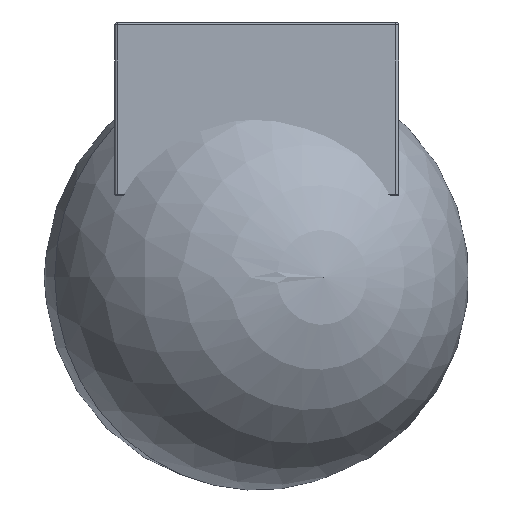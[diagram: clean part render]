
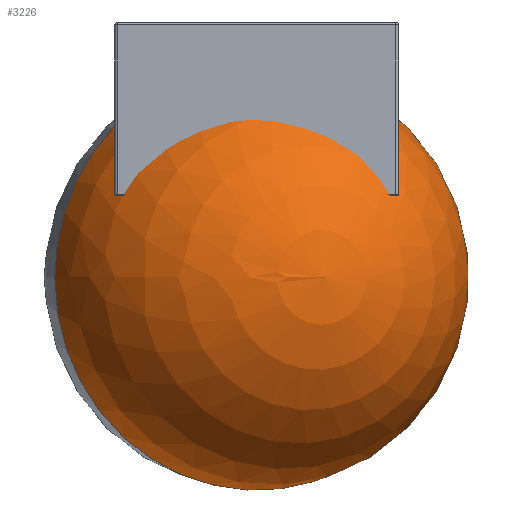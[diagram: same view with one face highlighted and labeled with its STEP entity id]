
A CAD part, left-side view. The second image highlights one B-rep face of the part: STEP entity #3226.
In plain terms, the highlighted spherical face has radius 60 mm.
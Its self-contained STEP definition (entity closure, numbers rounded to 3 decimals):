
#91=SPHERICAL_SURFACE('',#3648,60.);
#423=CIRCLE('',#3644,60.);
#425=CIRCLE('',#3646,60.);
#427=CIRCLE('',#3649,27.942);
#428=CIRCLE('',#3650,60.);
#636=FACE_OUTER_BOUND('',#861,.T.);
#861=EDGE_LOOP('',(#2909,#2910,#2911,#2912,#2913));
#1560=VERTEX_POINT('',#5760);
#1561=VERTEX_POINT('',#5761);
#1563=VERTEX_POINT('',#5765);
#1564=VERTEX_POINT('',#5770);
#2012=EDGE_CURVE('',#1560,#1561,#423,.T.);
#2014=EDGE_CURVE('',#1561,#1563,#425,.T.);
#2016=EDGE_CURVE('',#1563,#1560,#427,.T.);
#2017=EDGE_CURVE('',#1561,#1564,#428,.T.);
#2909=ORIENTED_EDGE('',*,*,#2012,.F.);
#2910=ORIENTED_EDGE('',*,*,#2016,.F.);
#2911=ORIENTED_EDGE('',*,*,#2014,.F.);
#2912=ORIENTED_EDGE('',*,*,#2017,.T.);
#2913=ORIENTED_EDGE('',*,*,#2017,.F.);
#3226=ADVANCED_FACE('',(#636),#91,.T.);
#3644=AXIS2_PLACEMENT_3D('',#5762,#4697,#4698);
#3646=AXIS2_PLACEMENT_3D('',#5766,#4701,#4702);
#3648=AXIS2_PLACEMENT_3D('',#5768,#4705,#4706);
#3649=AXIS2_PLACEMENT_3D('',#5769,#4707,#4708);
#3650=AXIS2_PLACEMENT_3D('',#5771,#4709,#4710);
#4697=DIRECTION('center_axis',(0.,0.,1.));
#4698=DIRECTION('ref_axis',(0.,1.,0.));
#4701=DIRECTION('center_axis',(0.,0.,1.));
#4702=DIRECTION('ref_axis',(0.,1.,0.));
#4705=DIRECTION('center_axis',(0.,0.,1.));
#4706=DIRECTION('ref_axis',(1.,0.,0.));
#4707=DIRECTION('center_axis',(0.,-1.,0.));
#4708=DIRECTION('ref_axis',(-1.,0.,0.));
#4709=DIRECTION('center_axis',(0.,-1.,0.));
#4710=DIRECTION('ref_axis',(-1.,0.,0.));
#5760=CARTESIAN_POINT('',(27.942,94.539,0.));
#5761=CARTESIAN_POINT('',(-60.,147.636,0.));
#5762=CARTESIAN_POINT('Origin',(0.,147.636,0.));
#5765=CARTESIAN_POINT('',(-27.942,94.539,0.));
#5766=CARTESIAN_POINT('Origin',(0.,147.636,0.));
#5768=CARTESIAN_POINT('Origin',(0.,147.636,0.));
#5769=CARTESIAN_POINT('Origin',(0.,94.539,0.));
#5770=CARTESIAN_POINT('',(0.,147.636,-60.));
#5771=CARTESIAN_POINT('Origin',(0.,147.636,0.));
